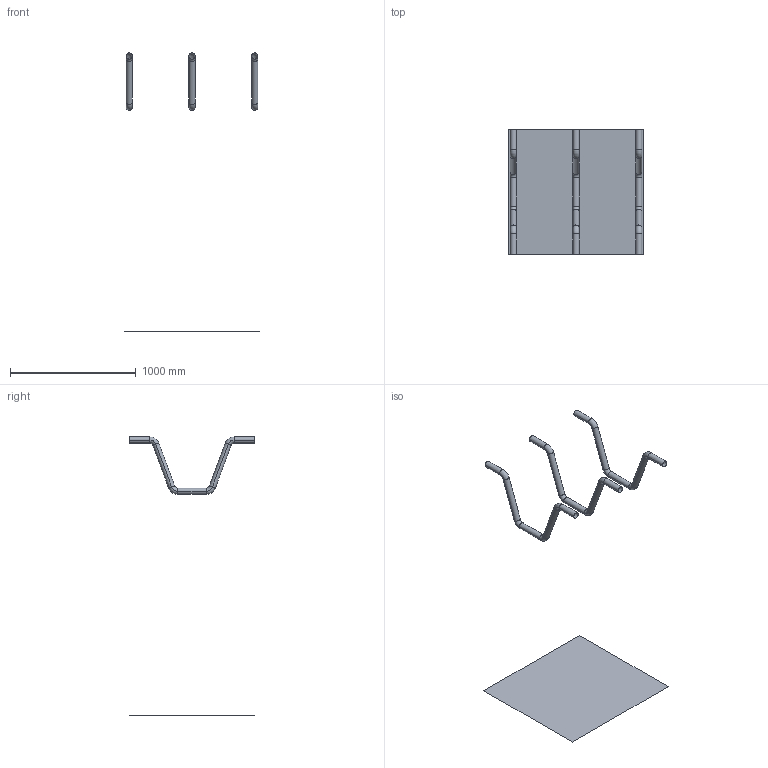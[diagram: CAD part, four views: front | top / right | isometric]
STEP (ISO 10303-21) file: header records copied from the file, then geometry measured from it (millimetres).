
FILE_DESCRIPTION(('CATIA V5 STEP Exchange'),'2;1');
FILE_NAME('C:\_Andres\UNIVERSIDAD\IQS\ASIGNATURAS\DAO\EXF\EXF-16172c\2inicio\dAndrea_Torrejon_Ej08_v8.stp','2017-03-05T21:54:49+00:00',('none'),('none'),'CATIA Version 5-6 Release 2014 SP1 HF18','CATIA V5 STEP AP203','none');
FILE_SCHEMA(('CONFIG_CONTROL_DESIGN'));
Length unit declared in the file: millimetre
Products named in the file (1): dAndrea_Torrejon_Ej08_v8
Bounding box: 1080 x 1000 x 2217 mm (x, y, z)
Surface area: 1802870.9 mm2 (no closed solid volume)
Topology: 0 solids, 4 shells, 55 faces, 118 edges, 64 vertices
Faces by surface type: cylinder 30, torus 24, plane 1
Entity records: 1283 total; most frequent: ORIENTED_EDGE 220, CARTESIAN_POINT 208, DIRECTION 168, EDGE_CURVE 118, AXIS2_PLACEMENT_3D 110, CIRCLE 84, VERTEX_POINT 64, ADVANCED_FACE 55
